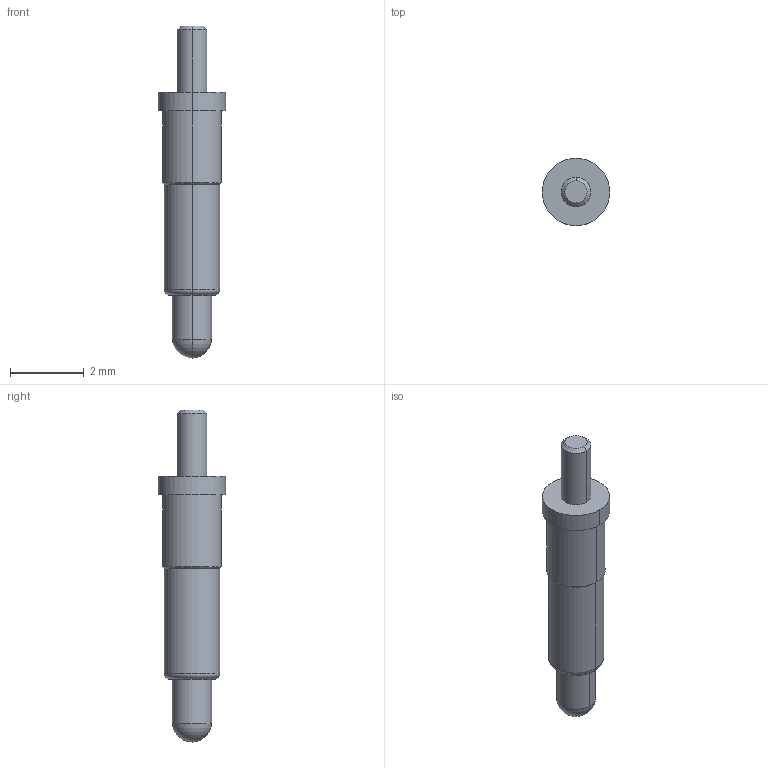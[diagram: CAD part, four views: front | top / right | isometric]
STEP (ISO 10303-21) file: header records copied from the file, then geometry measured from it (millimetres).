
FILE_DESCRIPTION((''),'2;1');
FILE_NAME('PRT0024','2023-05-26T11:37:18',('USER'),(''),'CREO PARAMETRIC BY PTC INC, 2020154','CREO PARAMETRIC BY PTC INC, 2020154','');
FILE_SCHEMA(('CONFIG_CONTROL_DESIGN'));
Length unit declared in the file: millimetre
Products named in the file (1): PRT0024
Bounding box: 1.83 x 1.83 x 9 mm (x, y, z)
Volume: 12.9 mm3; surface area: 41 mm2
Topology: 1 solids, 1 shells, 22 faces, 44 edges, 25 vertices
Faces by surface type: cylinder 10, plane 4, cone 4, torus 2, sphere 2
Entity records: 600 total; most frequent: DIRECTION 114, CARTESIAN_POINT 89, ORIENTED_EDGE 84, AXIS2_PLACEMENT_3D 50, EDGE_CURVE 42, CIRCLE 28, VERTEX_POINT 25, EDGE_LOOP 25
